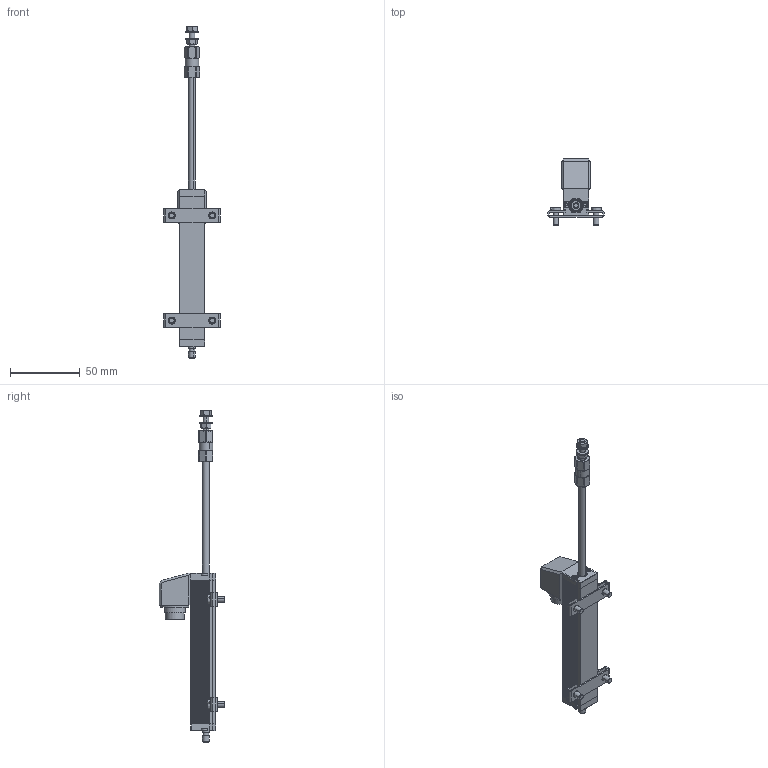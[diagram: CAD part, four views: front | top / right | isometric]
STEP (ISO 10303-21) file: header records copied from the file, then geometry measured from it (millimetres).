
FILE_DESCRIPTION (( 'STEP AP214' ), '1' );
FILE_NAME ('TS_075.STEP', '2008-11-05T10:51:51', ( 'novotechnik' ), ( 'novotechnik' ), 'SwSTEP 2.0', 'SolidWorks 2008', '' );
FILE_SCHEMA (( 'AUTOMOTIVE_DESIGN' ));
Length unit declared in the file: millimetre
Products named in the file (4): T_TS_075_-_Schubstange_Standard; T-Serie_Klammer_Standard; TS_075; TS_075_-_Gehaeuse_Standard
Assembly tree (4 placements, depth 2):
  TS_075
    TS_075_-_Gehaeuse_Standard
    T-Serie_Klammer_Standard  x2
    T_TS_075_-_Schubstange_Standard
Bounding box: 40.19 x 47.2 x 238 mm (x, y, z)
Volume: 53551.1 mm3; surface area: 29101.5 mm2
Topology: 32 solids, 32 shells, 1205 faces, 2936 edges, 1817 vertices
Faces by surface type: cylinder 561, plane 371, cone 152, bspline 117, torus 4
Entity records: 49818 total; most frequent: CARTESIAN_POINT 10209, DIRECTION 5805, ORIENTED_EDGE 5488, EDGE_CURVE 2744, AXIS2_PLACEMENT_3D 2283, VERTEX_POINT 1713, EDGE_LOOP 1257, CIRCLE 1254
